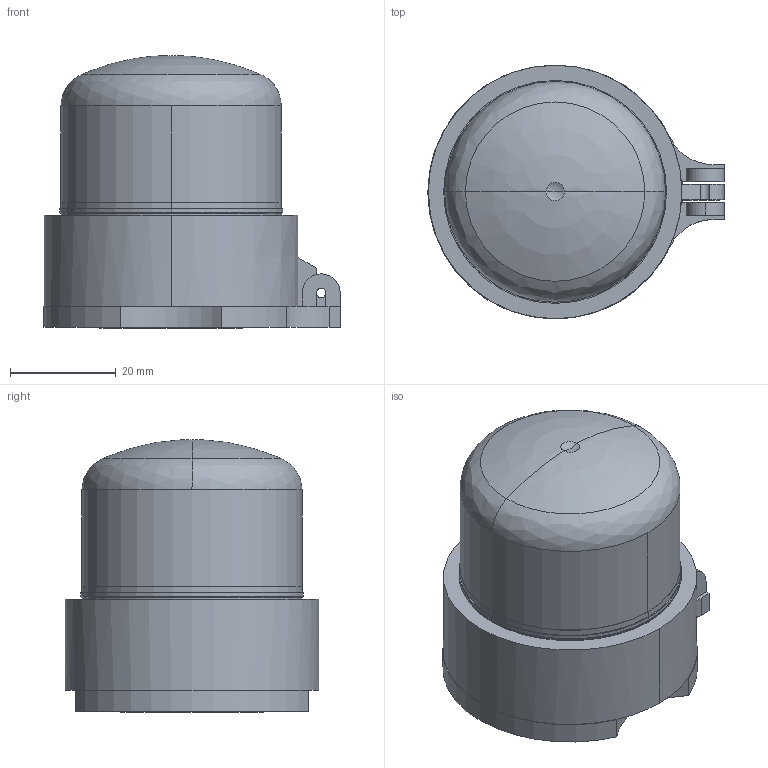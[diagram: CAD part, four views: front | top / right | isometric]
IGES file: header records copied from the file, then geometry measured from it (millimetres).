
Start section: Data from XPlus IGES,  Spatial Corp. Copyright (c) 1999-2004
Global section: file name: 216397.igs; native system:  By Spatial Corp.; preprocessor: XPlus ACIS/IGES 3.0; author: Noname; organization: Noname; date: 20120530.174410; units: millimetre
Bounding box: 56.1 x 48 x 51.6 mm (x, y, z)
Surface area: 18377.8 mm2 (no closed solid volume)
Topology: 0 solids, 0 shells, 105 faces, 556 edges, 552 vertices
Faces by surface type: revolution 58, extrusion 47
